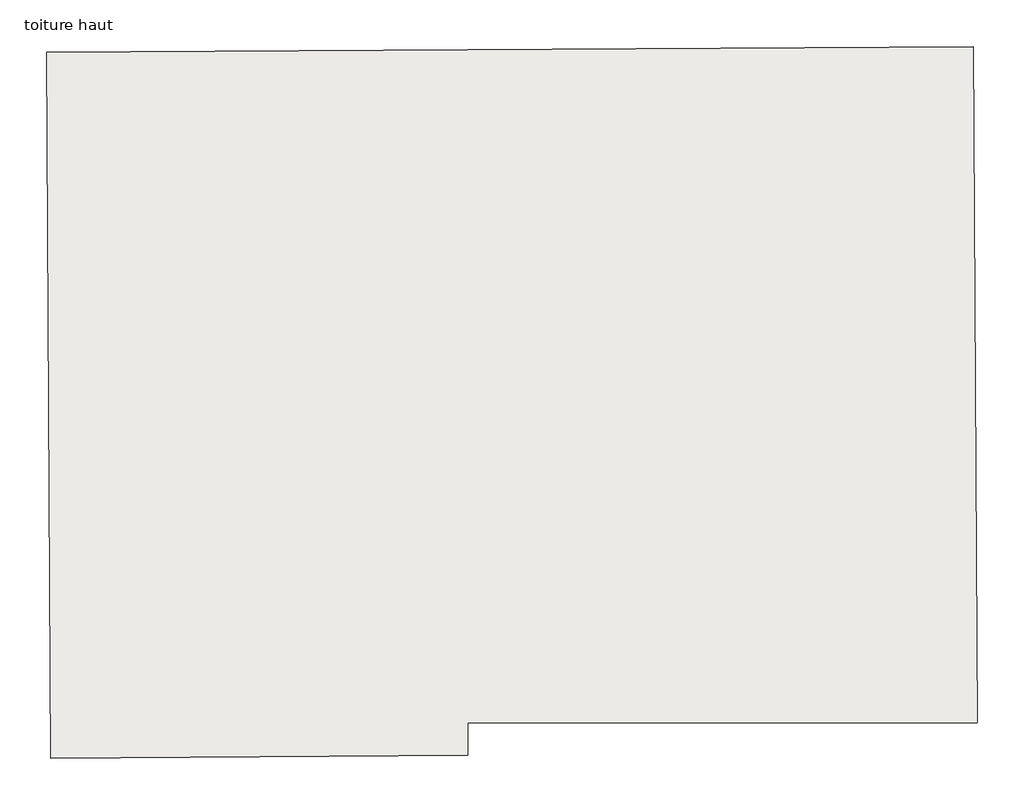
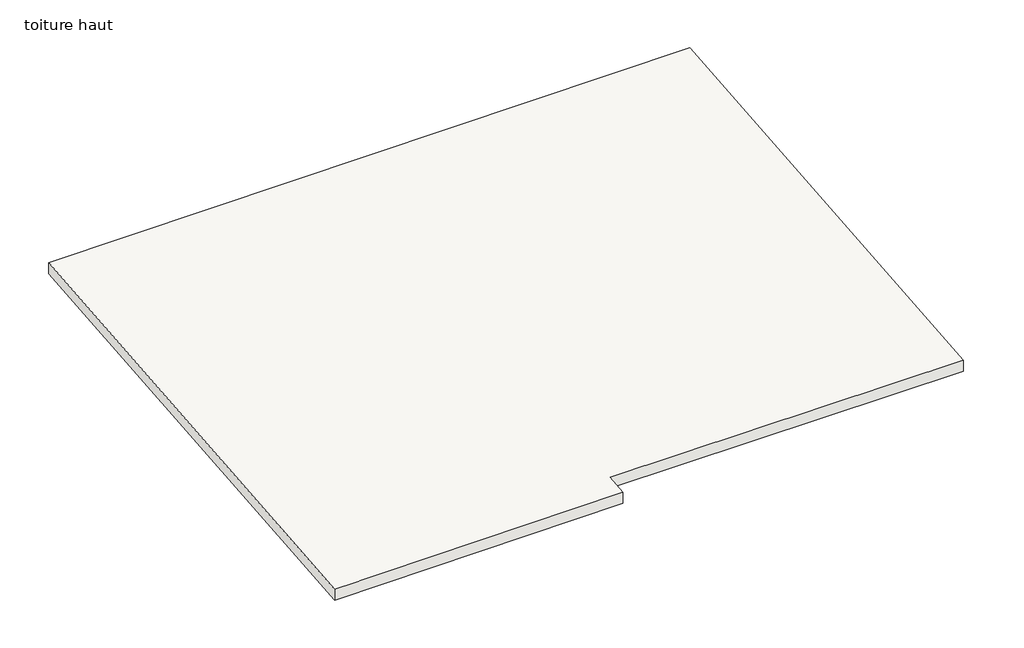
# One storey: 1 roof.
"""IFC4 building model written with IfcOpenShell, lengths in millimetres."""

from ifc_helpers import new_model, si_unit, origin, place, context, project, spatial, faceted_brep, element, save

model = new_model("IFC4")

# Units and contexts
model_context = context("Model", 3, world=origin())
ifc_project = project(units=[si_unit("LENGTHUNIT", "METRE", prefix="MILLI")], contexts=[model_context])

# Site, building, storey
site = spatial("IfcSite", under=ifc_project)
building = spatial("IfcBuilding", under=site)
storey = spatial("IfcBuildingStorey", under=building, Name="toiture haut", Elevation=-1893.75)

# Roof
placement = place(None, origin())
element("IfcRoof", 1, ObjectType="Toit - 300mm", at=placement, inside=storey, context=model_context, shape_type="Brep", body=[
    faceted_brep([(-4081.1259879, -15082.3077383, -3193.1974342), (-4161.8189561, -2212.9973445, -1893.75), (-4161.8189561, -2212.9973445, -2195.2753811), (-4081.1259879, -15082.3077383, -3494.7228153), (12737.84884, -2107.0332863, -2195.2753811), (12737.84884, -2107.0332863, -1893.75), (12815.1451046, -14434.620734, -3138.4982724), (12815.1451046, -14434.620734, -3440.0236535), (3524.2313715, -15034.620734, -3193.1974342), (3524.2313715, -14434.620734, -3132.6162698), (3524.2313715, -14434.620734, -3434.1416509), (3524.2313715, -15034.620734, -3494.7228153)], [[[0, 1, 2, 3]], [[4, 5, 6, 7]], [[1, 0, 8, 9, 6, 5]], [[2, 1, 5, 4]], [[3, 2, 4, 7, 10, 11]], [[0, 3, 11, 8]], [[10, 9, 8, 11]], [[9, 10, 7, 6]]]),
])

save(model, "model.ifc")
